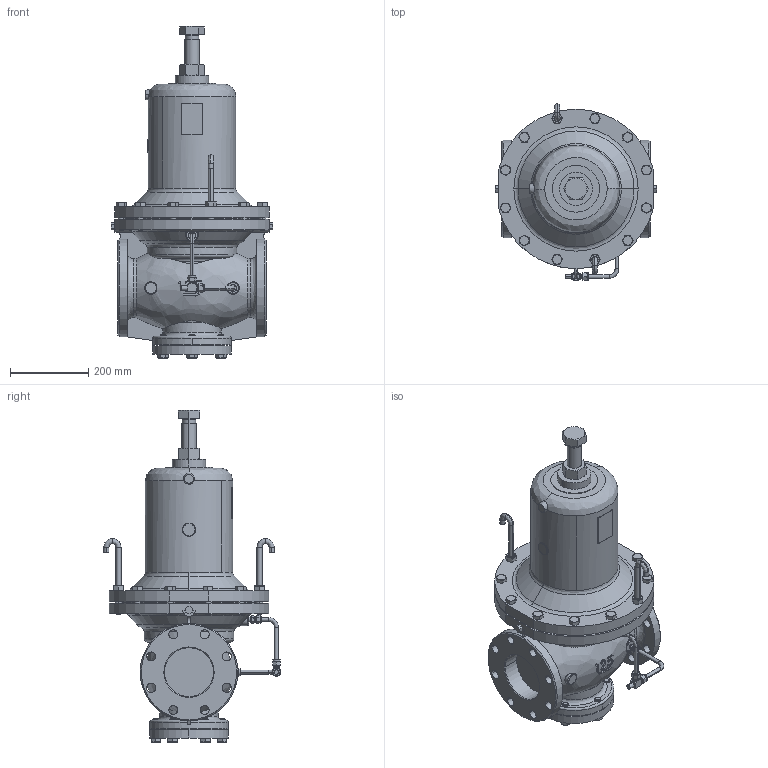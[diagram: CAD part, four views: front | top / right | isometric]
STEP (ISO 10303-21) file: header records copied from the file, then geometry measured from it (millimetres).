
FILE_DESCRIPTION( (''), '2;1');
FILE_NAME ('PC1027.11244.GD-200 125A_24317.stp','2025-07-25T11:47:25',(''),(''),'spGate 19.8.4 (****-****-****-****)','','');
FILE_SCHEMA (('AUTOMOTIVE_DESIGN'));
Length unit declared in the file: millimetre
Products named in the file (34): Assembly; PC1056-prt12; PC1056-prt13; PC1056-prt14; PC1056-prt15; PC1056-prt16; PC1056-prt17; PC1056-prt18; PC1056-prt20; 5B本体; 5Ｂカバー; GD-200 125A_M2; B-600-1-4RT; SS-10M0-3; 検出管A65_M5; 検出管B65_M5; 5B保護筒; GD-200 125A_M3; GD-200 125A_M4; GD-200 125A_M5; フックボルト_M7; フックボルト_M9; フックボルト_M10; フックボルト_M11; フックボルト_M12; GD-200 125A_M6
Assembly tree (54 placements, depth 2):
  Assembly
    PC1056-prt12
    PC1056-prt13
    PC1056-prt14
    PC1056-prt15
    PC1056-prt16
    PC1056-prt17
    PC1056-prt18
    PC1056-prt20
    PC1056-prt17
    PC1056-prt15
    PC1056-prt13
    PC1056-prt14
    PC1056-prt12
    PC1056-prt20
    PC1056-prt18
    PC1056-prt16
    5B本体
    5Ｂカバー
    GD-200 125A_M2  x6
    B-600-1-4RT  x2
    SS-10M0-3
    検出管A65_M5
    検出管B65_M5
    5B保護筒
    GD-200 125A_M3  x10
    GD-200 125A_M4
    GD-200 125A_M5
    フックボルト_M7  x2
    フックボルト_M9  x2
    フックボルト_M10  x2
    フックボルト_M11  x2
    フックボルト_M12  x2
    GD-200 125A_M6  x2
Bounding box: 413 x 451.65 x 850.5 mm (x, y, z)
Volume: 37891782.2 mm3; surface area: 1569614.3 mm2
Topology: 38 solids, 38 shells, 1060 faces, 2437 edges, 1527 vertices
Faces by surface type: plane 404, bspline 368, cylinder 288
Entity records: 37581 total; most frequent: CARTESIAN_POINT 10730, ORIENTED_EDGE 3042, DIRECTION 2711, COLOUR_RGB 2182, PRESENTATION_STYLE_ASSIGNMENT 2182, STYLED_ITEM 2182, DRAUGHTING_PRE_DEFINED_CURVE_FONT 1537, CURVE_STYLE 1537
